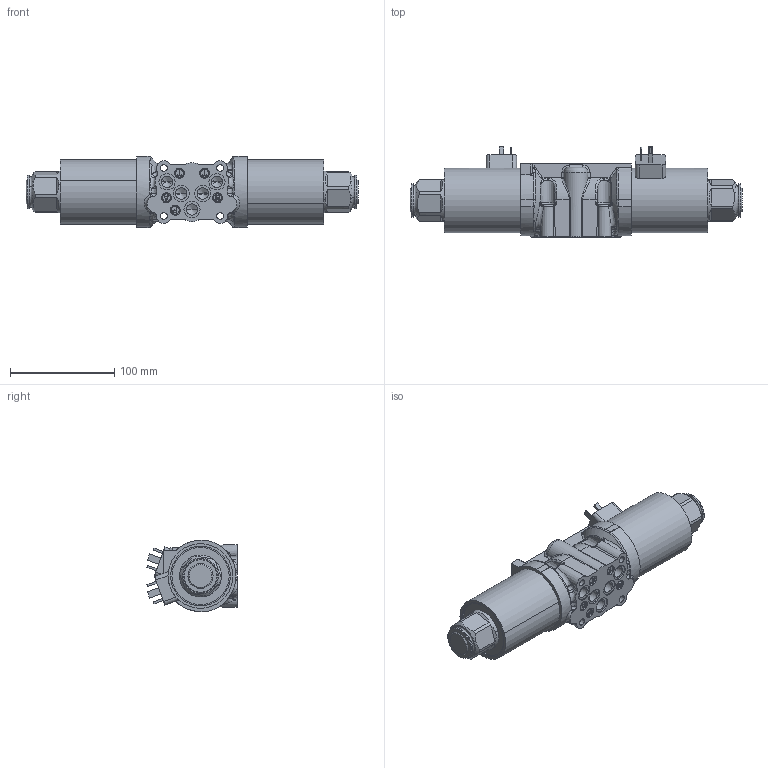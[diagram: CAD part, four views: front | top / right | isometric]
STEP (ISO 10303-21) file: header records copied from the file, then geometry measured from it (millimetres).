
FILE_DESCRIPTION((''),'2;1');
FILE_NAME('RPE4_103Z11_E1','2006-01-24T',('kjerabkova'),(''),'PRO/ENGINEER BY PARAMETRIC TECHNOLOGY CORPORATION, 2005450','PRO/ENGINEER BY PARAMETRIC TECHNOLOGY CORPORATION, 2005450','');
FILE_SCHEMA(('CONFIG_CONTROL_DESIGN'));
Length unit declared in the file: millimetre
Products named in the file (1): RPE4_103Z11_E1
Bounding box: 318 x 86.29 x 68.21 mm (x, y, z)
Volume: 878265.2 mm3; surface area: 80691.1 mm2
Topology: 1 solids, 7 shells, 658 faces, 1599 edges, 980 vertices
Faces by surface type: plane 256, bspline 160, cylinder 138, cone 58, torus 35, sphere 11
Entity records: 32436 total; most frequent: CARTESIAN_POINT 18185, ORIENTED_EDGE 3154, DIRECTION 2650, EDGE_CURVE 1577, VERTEX_POINT 980, AXIS2_PLACEMENT_3D 977, EDGE_LOOP 713, VECTOR 696
